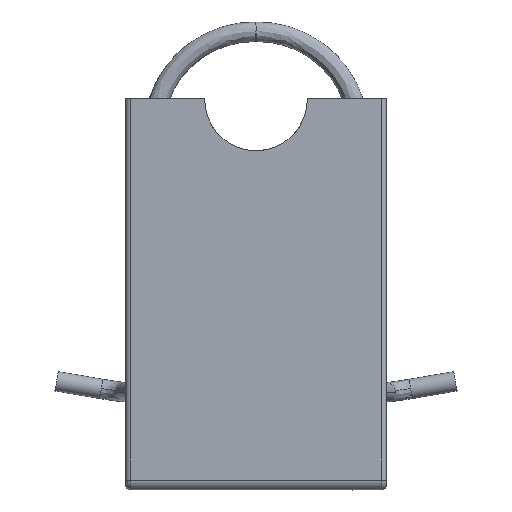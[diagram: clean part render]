
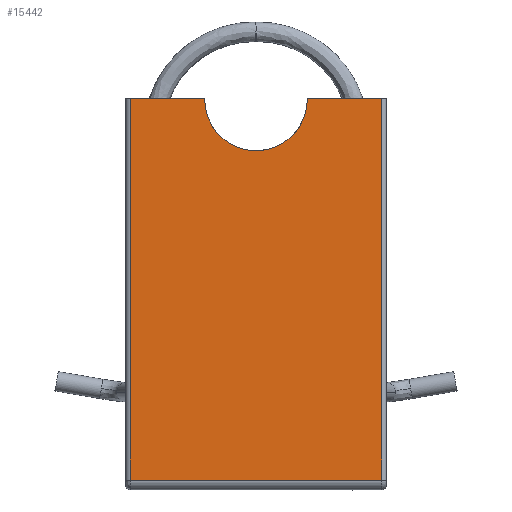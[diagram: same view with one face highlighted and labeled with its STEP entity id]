
A CAD part, top view. The second image highlights one B-rep face of the part: STEP entity #15442.
In plain terms, the highlighted planar face has unit normal (0, 0, 1).
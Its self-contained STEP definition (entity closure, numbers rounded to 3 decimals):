
#69 = LINE ( 'NONE', #6430, #9357 ) ;
#637 = EDGE_CURVE ( 'NONE', #3045, #9735, #2502, .T. ) ;
#876 = ORIENTED_EDGE ( 'NONE', *, *, #9177, .T. ) ;
#1001 = AXIS2_PLACEMENT_3D ( 'NONE', #5900, #13321, #8827 ) ;
#1096 = LINE ( 'NONE', #2575, #13556 ) ;
#1378 = VECTOR ( 'NONE', #8899, 1000. ) ;
#1915 = VERTEX_POINT ( 'NONE', #2172 ) ;
#1950 = CARTESIAN_POINT ( 'NONE',  ( -3.15, 0., 0. ) ) ;
#2172 = CARTESIAN_POINT ( 'NONE',  ( 7.7, 0., 0. ) ) ;
#2270 = LINE ( 'NONE', #9052, #11481 ) ;
#2353 = FACE_OUTER_BOUND ( 'NONE', #5795, .T. ) ;
#2434 = ORIENTED_EDGE ( 'NONE', *, *, #15381, .T. ) ;
#2467 = EDGE_CURVE ( 'NONE', #2790, #1915, #7019, .T. ) ;
#2502 = CIRCLE ( 'NONE', #1001, 3.15 ) ;
#2575 = CARTESIAN_POINT ( 'NONE',  ( -8., 0., 0. ) ) ;
#2790 = VERTEX_POINT ( 'NONE', #15582 ) ;
#2907 = VERTEX_POINT ( 'NONE', #10972 ) ;
#2920 = EDGE_CURVE ( 'NONE', #1915, #3598, #1096, .T. ) ;
#3045 = VERTEX_POINT ( 'NONE', #6526 ) ;
#3056 = DIRECTION ( 'NONE',  ( 0., -1., 0. ) ) ;
#3118 = VECTOR ( 'NONE', #3577, 1000. ) ;
#3577 = DIRECTION ( 'NONE',  ( 0., -1., 0. ) ) ;
#3598 = VERTEX_POINT ( 'NONE', #13243 ) ;
#3834 = VECTOR ( 'NONE', #9001, 1000. ) ;
#4579 = CARTESIAN_POINT ( 'NONE',  ( -8., 0., 0. ) ) ;
#5098 = CARTESIAN_POINT ( 'NONE',  ( 7.7, 0., 0. ) ) ;
#5250 = CARTESIAN_POINT ( 'NONE',  ( -3.15, 0., 0. ) ) ;
#5391 = LINE ( 'NONE', #1950, #14591 ) ;
#5723 = PLANE ( 'NONE',  #8677 ) ;
#5776 = DIRECTION ( 'NONE',  ( 1., 0., 0. ) ) ;
#5795 = EDGE_LOOP ( 'NONE', ( #5927, #12533, #6972, #876, #12034, #2434, #15443, #9879 ) ) ;
#5900 = CARTESIAN_POINT ( 'NONE',  ( 0., -0.05, 0. ) ) ;
#5927 = ORIENTED_EDGE ( 'NONE', *, *, #10901, .T. ) ;
#6232 = DIRECTION ( 'NONE',  ( -1., 0., 0. ) ) ;
#6430 = CARTESIAN_POINT ( 'NONE',  ( -8., 0., 0. ) ) ;
#6526 = CARTESIAN_POINT ( 'NONE',  ( 3.15, -0.05, 0. ) ) ;
#6972 = ORIENTED_EDGE ( 'NONE', *, *, #2920, .T. ) ;
#6994 = EDGE_CURVE ( 'NONE', #10808, #7658, #69, .T. ) ;
#7019 = LINE ( 'NONE', #5098, #3834 ) ;
#7658 = VERTEX_POINT ( 'NONE', #14139 ) ;
#8677 = AXIS2_PLACEMENT_3D ( 'NONE', #4579, #12920, #5776 ) ;
#8827 = DIRECTION ( 'NONE',  ( 1., 0., 0. ) ) ;
#8899 = DIRECTION ( 'NONE',  ( 1., 0., 0. ) ) ;
#9001 = DIRECTION ( 'NONE',  ( 0., 1., 0. ) ) ;
#9052 = CARTESIAN_POINT ( 'NONE',  ( 3.15, 0., 0. ) ) ;
#9177 = EDGE_CURVE ( 'NONE', #3598, #3045, #2270, .T. ) ;
#9357 = VECTOR ( 'NONE', #14801, 1000. ) ;
#9735 = VERTEX_POINT ( 'NONE', #15586 ) ;
#9879 = ORIENTED_EDGE ( 'NONE', *, *, #15501, .T. ) ;
#10377 = DIRECTION ( 'NONE',  ( 0., 1., 0. ) ) ;
#10741 = CARTESIAN_POINT ( 'NONE',  ( -7.7, 0., 0. ) ) ;
#10808 = VERTEX_POINT ( 'NONE', #5250 ) ;
#10901 = EDGE_CURVE ( 'NONE', #2907, #2790, #14198, .T. ) ;
#10972 = CARTESIAN_POINT ( 'NONE',  ( -7.7, -23.4, 0. ) ) ;
#11481 = VECTOR ( 'NONE', #3056, 1000. ) ;
#12034 = ORIENTED_EDGE ( 'NONE', *, *, #637, .T. ) ;
#12320 = LINE ( 'NONE', #10741, #3118 ) ;
#12533 = ORIENTED_EDGE ( 'NONE', *, *, #2467, .T. ) ;
#12920 = DIRECTION ( 'NONE',  ( 0., 0., 1. ) ) ;
#13243 = CARTESIAN_POINT ( 'NONE',  ( 3.15, 0., 0. ) ) ;
#13321 = DIRECTION ( 'NONE',  ( 0., 0., -1. ) ) ;
#13556 = VECTOR ( 'NONE', #6232, 1000. ) ;
#14139 = CARTESIAN_POINT ( 'NONE',  ( -7.7, 0., 0. ) ) ;
#14198 = LINE ( 'NONE', #14929, #1378 ) ;
#14591 = VECTOR ( 'NONE', #10377, 1000. ) ;
#14801 = DIRECTION ( 'NONE',  ( -1., 0., 0. ) ) ;
#14929 = CARTESIAN_POINT ( 'NONE',  ( -8., -23.4, 0. ) ) ;
#15381 = EDGE_CURVE ( 'NONE', #9735, #10808, #5391, .T. ) ;
#15442 = ADVANCED_FACE ( 'NONE', ( #2353 ), #5723, .T. ) ;
#15443 = ORIENTED_EDGE ( 'NONE', *, *, #6994, .T. ) ;
#15501 = EDGE_CURVE ( 'NONE', #7658, #2907, #12320, .T. ) ;
#15582 = CARTESIAN_POINT ( 'NONE',  ( 7.7, -23.4, 0. ) ) ;
#15586 = CARTESIAN_POINT ( 'NONE',  ( -3.15, -0.05, 0. ) ) ;
